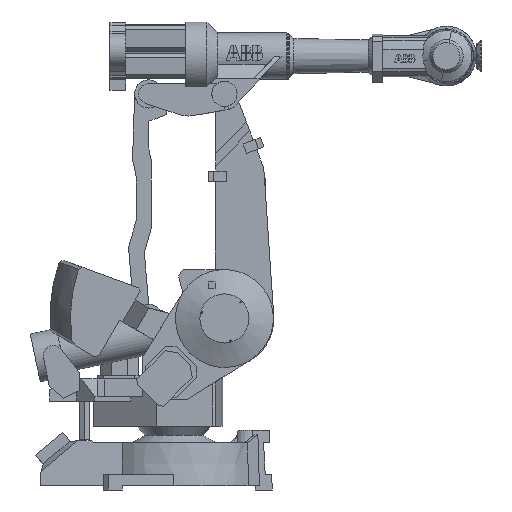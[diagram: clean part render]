
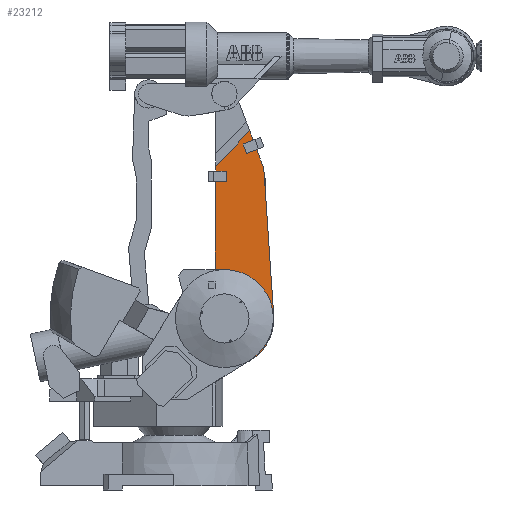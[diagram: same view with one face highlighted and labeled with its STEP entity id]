
A CAD part, front view. The second image highlights one B-rep face of the part: STEP entity #23212.
In plain terms, the highlighted planar face has unit normal (0, -1, 0).
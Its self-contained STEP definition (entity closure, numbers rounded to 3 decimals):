
#863=LINE('',#34706,#3722);
#864=LINE('',#34708,#3723);
#865=LINE('',#34710,#3724);
#866=LINE('',#34713,#3725);
#867=LINE('',#34719,#3726);
#868=LINE('',#34721,#3727);
#869=LINE('',#34723,#3728);
#870=LINE('',#34725,#3729);
#871=LINE('',#34727,#3730);
#872=LINE('',#34729,#3731);
#873=LINE('',#34731,#3732);
#874=LINE('',#34733,#3733);
#875=LINE('',#34735,#3734);
#876=LINE('',#34737,#3735);
#877=LINE('',#34738,#3736);
#3722=VECTOR('',#27735,1000.);
#3723=VECTOR('',#27736,1000.);
#3724=VECTOR('',#27737,1000.);
#3725=VECTOR('',#27740,1000.);
#3726=VECTOR('',#27745,1000.);
#3727=VECTOR('',#27746,1000.);
#3728=VECTOR('',#27747,1000.);
#3729=VECTOR('',#27748,1000.);
#3730=VECTOR('',#27749,1000.);
#3731=VECTOR('',#27750,1000.);
#3732=VECTOR('',#27751,1000.);
#3733=VECTOR('',#27752,1000.);
#3734=VECTOR('',#27753,1000.);
#3735=VECTOR('',#27754,1000.);
#3736=VECTOR('',#27755,1000.);
#6239=PLANE('',#24949);
#7276=FACE_BOUND('',#9104,.T.);
#7731=FACE_OUTER_BOUND('',#9103,.T.);
#9103=EDGE_LOOP('',(#17654,#17655,#17656,#17657,#17658,#17659,#17660,#17661,
#17662,#17663,#17664,#17665,#17666,#17667,#17668,#17669,#17670,#17671,#17672));
#9104=EDGE_LOOP('',(#17673));
#10263=CIRCLE('',#24930,95.);
#10264=CIRCLE('',#24932,135.);
#10276=CIRCLE('',#24950,94.673);
#10277=CIRCLE('',#24951,50.);
#10278=CIRCLE('',#24952,196.);
#10986=VERTEX_POINT('',#34659);
#10987=VERTEX_POINT('',#34662);
#10988=VERTEX_POINT('',#34663);
#11005=VERTEX_POINT('',#34704);
#11006=VERTEX_POINT('',#34705);
#11007=VERTEX_POINT('',#34707);
#11008=VERTEX_POINT('',#34709);
#11009=VERTEX_POINT('',#34712);
#11010=VERTEX_POINT('',#34714);
#11011=VERTEX_POINT('',#34716);
#11012=VERTEX_POINT('',#34718);
#11013=VERTEX_POINT('',#34720);
#11014=VERTEX_POINT('',#34722);
#11015=VERTEX_POINT('',#34724);
#11016=VERTEX_POINT('',#34726);
#11017=VERTEX_POINT('',#34728);
#11018=VERTEX_POINT('',#34730);
#11019=VERTEX_POINT('',#34732);
#11020=VERTEX_POINT('',#34734);
#11021=VERTEX_POINT('',#34736);
#13493=EDGE_CURVE('',#10986,#10986,#10263,.T.);
#13494=EDGE_CURVE('',#10987,#10988,#10264,.T.);
#13512=EDGE_CURVE('',#11005,#11006,#863,.T.);
#13513=EDGE_CURVE('',#11006,#11007,#864,.T.);
#13514=EDGE_CURVE('',#11007,#11008,#865,.T.);
#13515=EDGE_CURVE('',#11008,#10987,#10276,.T.);
#13516=EDGE_CURVE('',#10988,#11009,#866,.T.);
#13517=EDGE_CURVE('',#11009,#11010,#10277,.T.);
#13518=EDGE_CURVE('',#11010,#11011,#10278,.T.);
#13519=EDGE_CURVE('',#11011,#11012,#867,.T.);
#13520=EDGE_CURVE('',#11012,#11013,#868,.T.);
#13521=EDGE_CURVE('',#11013,#11014,#869,.T.);
#13522=EDGE_CURVE('',#11014,#11015,#870,.T.);
#13523=EDGE_CURVE('',#11015,#11016,#871,.T.);
#13524=EDGE_CURVE('',#11016,#11017,#872,.T.);
#13525=EDGE_CURVE('',#11017,#11018,#873,.T.);
#13526=EDGE_CURVE('',#11018,#11019,#874,.T.);
#13527=EDGE_CURVE('',#11019,#11020,#875,.T.);
#13528=EDGE_CURVE('',#11020,#11021,#876,.T.);
#13529=EDGE_CURVE('',#11021,#11005,#877,.T.);
#17654=ORIENTED_EDGE('',*,*,#13512,.T.);
#17655=ORIENTED_EDGE('',*,*,#13513,.T.);
#17656=ORIENTED_EDGE('',*,*,#13514,.T.);
#17657=ORIENTED_EDGE('',*,*,#13515,.T.);
#17658=ORIENTED_EDGE('',*,*,#13494,.T.);
#17659=ORIENTED_EDGE('',*,*,#13516,.T.);
#17660=ORIENTED_EDGE('',*,*,#13517,.T.);
#17661=ORIENTED_EDGE('',*,*,#13518,.T.);
#17662=ORIENTED_EDGE('',*,*,#13519,.T.);
#17663=ORIENTED_EDGE('',*,*,#13520,.T.);
#17664=ORIENTED_EDGE('',*,*,#13521,.T.);
#17665=ORIENTED_EDGE('',*,*,#13522,.T.);
#17666=ORIENTED_EDGE('',*,*,#13523,.T.);
#17667=ORIENTED_EDGE('',*,*,#13524,.T.);
#17668=ORIENTED_EDGE('',*,*,#13525,.T.);
#17669=ORIENTED_EDGE('',*,*,#13526,.T.);
#17670=ORIENTED_EDGE('',*,*,#13527,.T.);
#17671=ORIENTED_EDGE('',*,*,#13528,.T.);
#17672=ORIENTED_EDGE('',*,*,#13529,.T.);
#17673=ORIENTED_EDGE('',*,*,#13493,.T.);
#23212=ADVANCED_FACE('',(#7731,#7276),#6239,.T.);
#24930=AXIS2_PLACEMENT_3D('',#34660,#27689,#27690);
#24932=AXIS2_PLACEMENT_3D('',#34664,#27693,#27694);
#24949=AXIS2_PLACEMENT_3D('',#34703,#27733,#27734);
#24950=AXIS2_PLACEMENT_3D('',#34711,#27738,#27739);
#24951=AXIS2_PLACEMENT_3D('',#34715,#27741,#27742);
#24952=AXIS2_PLACEMENT_3D('',#34717,#27743,#27744);
#27689=DIRECTION('center_axis',(0.,1.,0.));
#27690=DIRECTION('ref_axis',(-1.,0.,0.));
#27693=DIRECTION('center_axis',(0.,-1.,0.));
#27694=DIRECTION('ref_axis',(-1.,0.,0.));
#27733=DIRECTION('center_axis',(0.,-1.,0.));
#27734=DIRECTION('ref_axis',(1.,0.,0.));
#27735=DIRECTION('',(0.,0.,-1.));
#27736=DIRECTION('',(-0.007,0.,-1.));
#27737=DIRECTION('',(-0.525,0.,-0.851));
#27738=DIRECTION('center_axis',(0.,-1.,0.));
#27739=DIRECTION('ref_axis',(0.,0.,1.));
#27740=DIRECTION('',(0.914,0.,-0.405));
#27741=DIRECTION('center_axis',(0.,-1.,0.));
#27742=DIRECTION('ref_axis',(-1.,0.,0.));
#27743=DIRECTION('center_axis',(0.,-1.,0.));
#27744=DIRECTION('ref_axis',(0.,0.,1.));
#27745=DIRECTION('',(-0.067,0.,0.998));
#27746=DIRECTION('',(-0.352,0.,0.936));
#27747=DIRECTION('',(-0.936,0.,-0.352));
#27748=DIRECTION('',(-0.352,0.,0.936));
#27749=DIRECTION('',(0.936,0.,0.352));
#27750=DIRECTION('',(-0.352,0.,0.936));
#27751=DIRECTION('',(-0.695,0.,-0.719));
#27752=DIRECTION('',(0.,0.,-1.));
#27753=DIRECTION('',(1.,0.,0.));
#27754=DIRECTION('',(0.,0.,-1.));
#27755=DIRECTION('',(-1.,0.,0.));
#34659=CARTESIAN_POINT('',(105.,-106.5,680.));
#34660=CARTESIAN_POINT('Origin',(200.,-106.5,680.));
#34662=CARTESIAN_POINT('',(104.074,-106.5,774.991));
#34663=CARTESIAN_POINT('',(145.294,-106.5,556.581));
#34664=CARTESIAN_POINT('Origin',(200.,-106.5,680.));
#34703=CARTESIAN_POINT('Origin',(224.923,-106.5,984.568));
#34704=CARTESIAN_POINT('',(165.,-106.5,1224.));
#34705=CARTESIAN_POINT('',(165.,-106.5,1084.));
#34706=CARTESIAN_POINT('',(165.,-106.5,984.568));
#34707=CARTESIAN_POINT('',(163.406,-106.5,850.932));
#34708=CARTESIAN_POINT('',(165.,-106.5,1084.));
#34709=CARTESIAN_POINT('',(131.122,-106.5,798.566));
#34710=CARTESIAN_POINT('',(163.406,-106.5,850.932));
#34711=CARTESIAN_POINT('Origin',(178.678,-106.5,716.704));
#34712=CARTESIAN_POINT('',(253.817,-106.5,508.478));
#34713=CARTESIAN_POINT('',(145.294,-106.5,556.581));
#34714=CARTESIAN_POINT('',(299.447,-106.5,511.103));
#34715=CARTESIAN_POINT('Origin',(274.078,-106.5,554.189));
#34716=CARTESIAN_POINT('',(396.,-106.5,680.));
#34717=CARTESIAN_POINT('Origin',(200.,-106.5,680.));
#34718=CARTESIAN_POINT('',(356.,-106.5,1275.));
#34719=CARTESIAN_POINT('',(396.,-106.5,680.));
#34720=CARTESIAN_POINT('',(328.036,-106.5,1349.319));
#34721=CARTESIAN_POINT('',(356.,-106.5,1275.));
#34722=CARTESIAN_POINT('',(287.791,-106.5,1334.176));
#34723=CARTESIAN_POINT('',(328.036,-106.5,1349.319));
#34724=CARTESIAN_POINT('',(273.704,-106.5,1371.613));
#34725=CARTESIAN_POINT('',(287.791,-106.5,1334.176));
#34726=CARTESIAN_POINT('',(313.949,-106.5,1386.757));
#34727=CARTESIAN_POINT('',(273.704,-106.5,1371.613));
#34728=CARTESIAN_POINT('',(300.138,-106.5,1423.463));
#34729=CARTESIAN_POINT('',(313.949,-106.5,1386.757));
#34730=CARTESIAN_POINT('',(165.,-106.5,1283.523));
#34731=CARTESIAN_POINT('',(300.138,-106.5,1423.463));
#34732=CARTESIAN_POINT('',(165.,-106.5,1264.));
#34733=CARTESIAN_POINT('',(165.,-106.5,984.568));
#34734=CARTESIAN_POINT('',(207.,-106.5,1264.));
#34735=CARTESIAN_POINT('',(224.923,-106.5,1264.));
#34736=CARTESIAN_POINT('',(207.,-106.5,1224.));
#34737=CARTESIAN_POINT('',(207.,-106.5,984.568));
#34738=CARTESIAN_POINT('',(224.923,-106.5,1224.));
